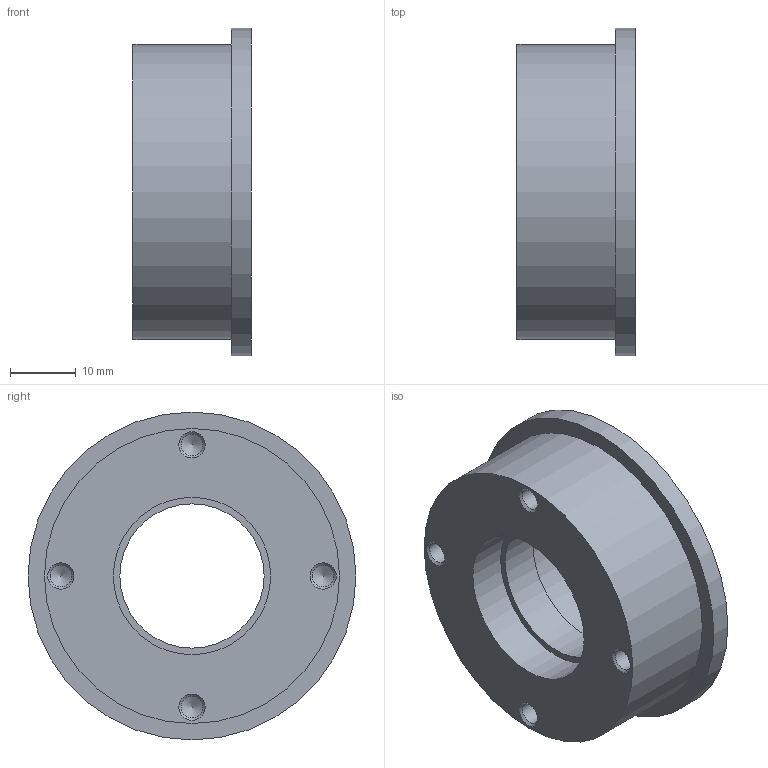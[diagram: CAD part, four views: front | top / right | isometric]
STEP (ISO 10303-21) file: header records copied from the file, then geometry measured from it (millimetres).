
FILE_DESCRIPTION(/* description */ (''),/* implementation_level */ '2;1');
FILE_NAME(/* name */ 'ri100加霍尔测试内转子.stp',/* time_stamp */ '2022-11-10T11:49:08+08:00',/* author */ (''),/* organization */ (''),/* preprocessor_version */ 'ST-DEVELOPER v16.7',/* originating_system */ 'SIEMENS PLM Software NX 12.0',/* authorisation */ '');
FILE_SCHEMA (('AUTOMOTIVE_DESIGN { 1 0 10303 214 3 1 1 1 }'));
Length unit declared in the file: millimetre
Products named in the file (1): 888_dwg
Bounding box: 18 x 50 x 50 mm (x, y, z)
Volume: 21749.8 mm3; surface area: 7407.6 mm2
Topology: 1 solids, 1 shells, 22 faces, 47 edges, 30 vertices
Faces by surface type: cylinder 9, cone 8, plane 5
Full cylindrical faces by diameter (mm): 3.3 x4, 22 x1, 24 x2, 45 x1, 50 x1
Entity records: 488 total; most frequent: DIRECTION 90, CARTESIAN_POINT 71, FACE_BOUND 48, AXIS2_PLACEMENT_3D 45, EDGE_LOOP 44, ORIENTED_EDGE 44, VERTEX_POINT 26, ADVANCED_FACE 22
